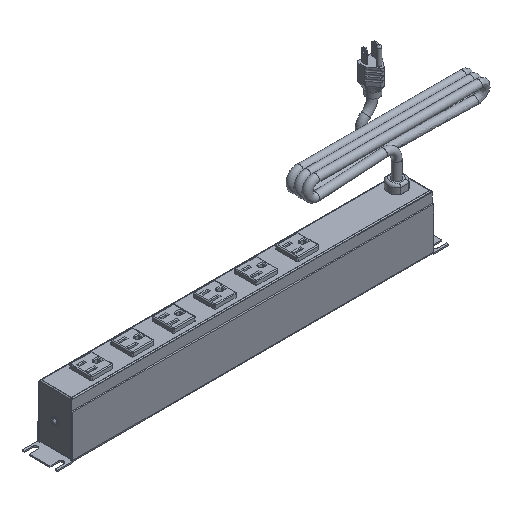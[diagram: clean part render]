
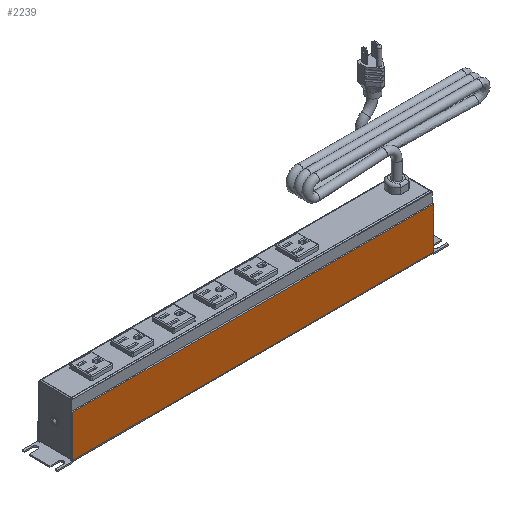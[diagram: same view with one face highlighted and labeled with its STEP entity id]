
A CAD part, isometric view. The second image highlights one B-rep face of the part: STEP entity #2239.
In plain terms, the highlighted planar face has unit normal (0, -1, 0).
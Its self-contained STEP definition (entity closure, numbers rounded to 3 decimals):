
#2030=CARTESIAN_POINT('',(-222.25,-21.819,2.588));
#2031=VERTEX_POINT('',#2030);
#2032=CARTESIAN_POINT('',(222.25,-21.819,2.588));
#2033=VERTEX_POINT('',#2032);
#2034=CARTESIAN_POINT('',(-222.25,-21.819,2.588));
#2035=DIRECTION('',(1.0,0.0,0.0));
#2036=VECTOR('',#2035,444.5);
#2037=LINE('',#2034,#2036);
#2038=EDGE_CURVE('',#2031,#2033,#2037,.T.);
#2088=CARTESIAN_POINT('',(222.25,-21.819,53.975));
#2089=VERTEX_POINT('',#2088);
#2096=CARTESIAN_POINT('',(222.25,-21.819,53.975));
#2097=DIRECTION('',(0.0,0.0,-1.0));
#2098=VECTOR('',#2097,51.387);
#2099=LINE('',#2096,#2098);
#2100=EDGE_CURVE('',#2089,#2033,#2099,.T.);
#2193=CARTESIAN_POINT('',(-222.25,-21.819,53.975));
#2194=VERTEX_POINT('',#2193);
#2195=CARTESIAN_POINT('',(-222.25,-21.819,2.588));
#2196=DIRECTION('',(0.0,0.0,1.0));
#2197=VECTOR('',#2196,51.388);
#2198=LINE('',#2195,#2197);
#2199=EDGE_CURVE('',#2031,#2194,#2198,.T.);
#2216=CARTESIAN_POINT('',(-222.25,-21.819,53.975));
#2217=DIRECTION('',(1.0,0.0,0.0));
#2218=VECTOR('',#2217,444.5);
#2219=LINE('',#2216,#2218);
#2220=EDGE_CURVE('',#2194,#2089,#2219,.T.);
#2228=CARTESIAN_POINT('',(0.,-21.819,26.947));
#2229=DIRECTION('',(0.0,1.0,0.0));
#2230=DIRECTION('',(1.0,0.0,0.0));
#2231=AXIS2_PLACEMENT_3D('',#2228,#2229,#2230);
#2232=PLANE('',#2231);
#2233=ORIENTED_EDGE('',*,*,#2038,.T.);
#2234=ORIENTED_EDGE('',*,*,#2100,.F.);
#2235=ORIENTED_EDGE('',*,*,#2220,.F.);
#2236=ORIENTED_EDGE('',*,*,#2199,.F.);
#2237=EDGE_LOOP('',(#2233,#2234,#2235,#2236));
#2238=FACE_OUTER_BOUND('',#2237,.T.);
#2239=ADVANCED_FACE('',(#2238),#2232,.F.);
